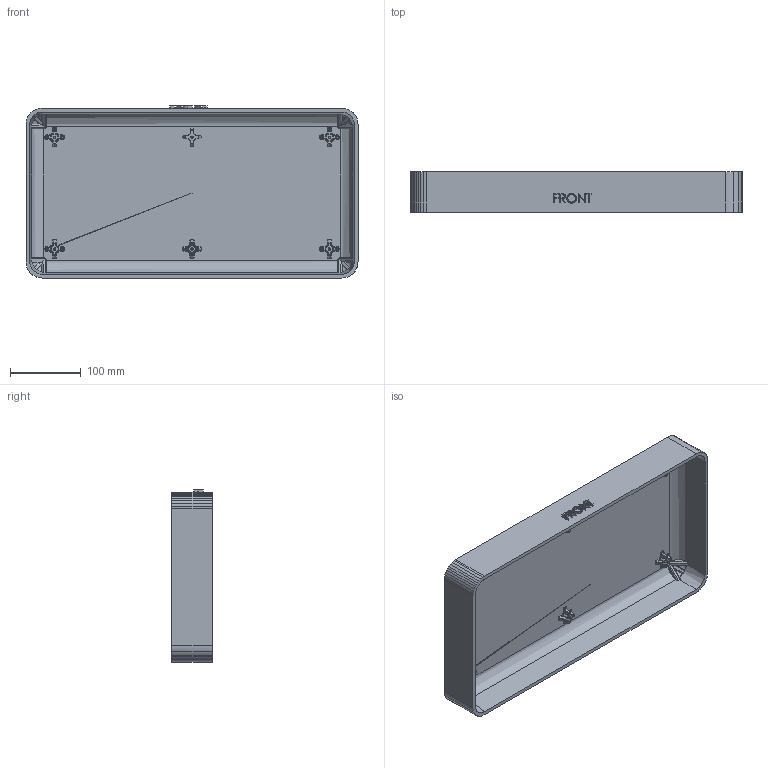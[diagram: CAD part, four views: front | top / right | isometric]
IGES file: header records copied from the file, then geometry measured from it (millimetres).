
Start section: SolidWorks IGES file using analytic representation for surfaces
Bounding box: 467.84 x 57.15 x 242.42 mm (x, y, z)
Surface area: 364699.8 mm2 (no closed solid volume)
Topology: 0 solids, 0 shells, 720 faces, 8665 edges, 10433 vertices
Faces by surface type: bspline 446, revolution 274
